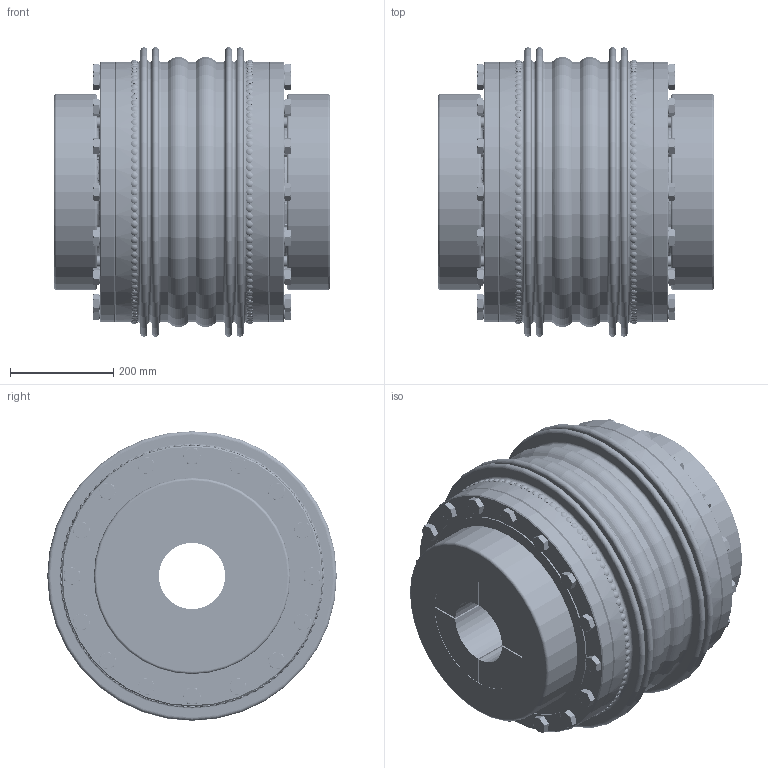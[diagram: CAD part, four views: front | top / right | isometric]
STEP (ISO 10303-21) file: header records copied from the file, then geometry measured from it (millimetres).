
FILE_DESCRIPTION(/* description */ ('Unknown'),/* implementation_level */ '2;1');
FILE_NAME(/* name */ 'KXL 50 A-A',/* time_stamp */ '2020-07-06T10:02:15+02:00',/* author */ ('Unknown'),/* organization */ ('Unknown'),/* preprocessor_version */ 'ST-DEVELOPER v16.7',/* originating_system */ 'DEX',/* authorisation */ $);
FILE_SCHEMA (('AUTOMOTIVE_DESIGN {1 0 10303 214 3 1 1}'));
Products named in the file (1): KXL 50 A-A
Bounding box: 534.8 x 560.5 x 560.5 mm (x, y, z)
Volume: 32378572.8 mm3; surface area: 3743232.7 mm2
Topology: 1 solids, 59 shells, 2836 faces, 6333 edges, 4221 vertices
Faces by surface type: plane 1240, torus 972, cylinder 494, cone 130
Full cylindrical faces by diameter (mm): 6.4 x200, 15 x12, 17.294 x68, 20 x68, 21 x56, 28.2 x56, 128 x2, 380 x2, 410 x4, 420 x4, 430 x2, 487 x2, 499.7 x3, 504.7 x3, 505 x4
Entity records: 69966 total; most frequent: CARTESIAN_POINT 17789, DIRECTION 10630, ORIENTED_EDGE 8172, FACE_BOUND 5044, EDGE_LOOP 4808, AXIS2_PLACEMENT_3D 4795, EDGE_CURVE 4086, VERTEX_POINT 3458
